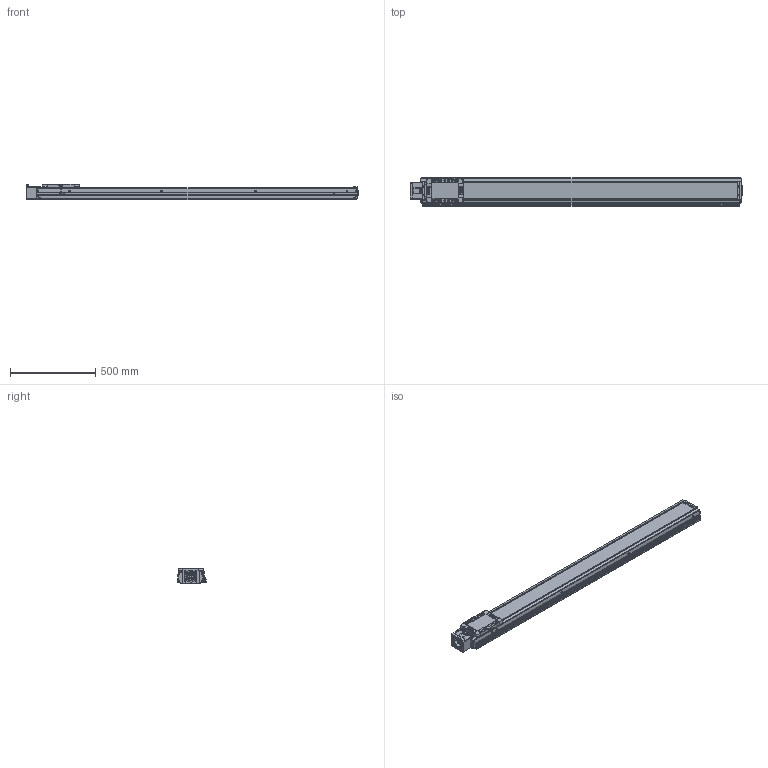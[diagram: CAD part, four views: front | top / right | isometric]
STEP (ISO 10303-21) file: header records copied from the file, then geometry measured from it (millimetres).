
FILE_DESCRIPTION(('STEP AP214'),'1');
FILE_NAME('Z:/Web/3D/SAN150/2013.04 (STP.)/SAN150ㅁㅁ-1600S+3SR.stp','2013-05-07T08:18:16',(' '),(' '),'Spatial InterOp 3D',' ',' ');
FILE_SCHEMA(('automotive_design'));
Length unit declared in the file: millimetre
Products named in the file (97): M3.0 x 6.0; SRL-16x17-360L; SGD-SAN150; EE-SX674; SBK-SX674-352; 스크루 : Round - M3.0 x 6.0; BHCS M4.0 x 10.0; SLBL-SAN150; SLCV-SAN150; FHCS M4.0 x 8.0; SFX-SAN150; RRCV-SAN150; FRBL-SAN150; Spacer; RN15; FRCV-SAN150; Screw 20; BASE-SAN150-000L ; SUS COVER; 스크루 : Round - M5.0 x 6.0; BHCS M3.0 x 6.0; SSFX-SAN65; CPLCV-SAN65; SDWA47C(2); SDWA47C(3-1); SDWA47C(3); SDWA47C(1); SDWA47C(4); SDWA47C(5); MTHZ-SAN150-80
Bounding box: 1949 x 166 x 90 mm (x, y, z)
Volume: 10127952.7 mm3; surface area: 2062546.2 mm2
Topology: 97 solids, 97 shells, 3666 faces, 9522 edges, 6136 vertices
Faces by surface type: plane 1631, cylinder 1413, cone 493, sphere 84, bspline 29, torus 16
Entity records: 148092 total; most frequent: CARTESIAN_POINT 24387, DIRECTION 20595, ORIENTED_EDGE 18732, EDGE_CURVE 9366, AXIS2_PLACEMENT_3D 7699, VERTEX_POINT 6136, LINE 5197, VECTOR 5197
